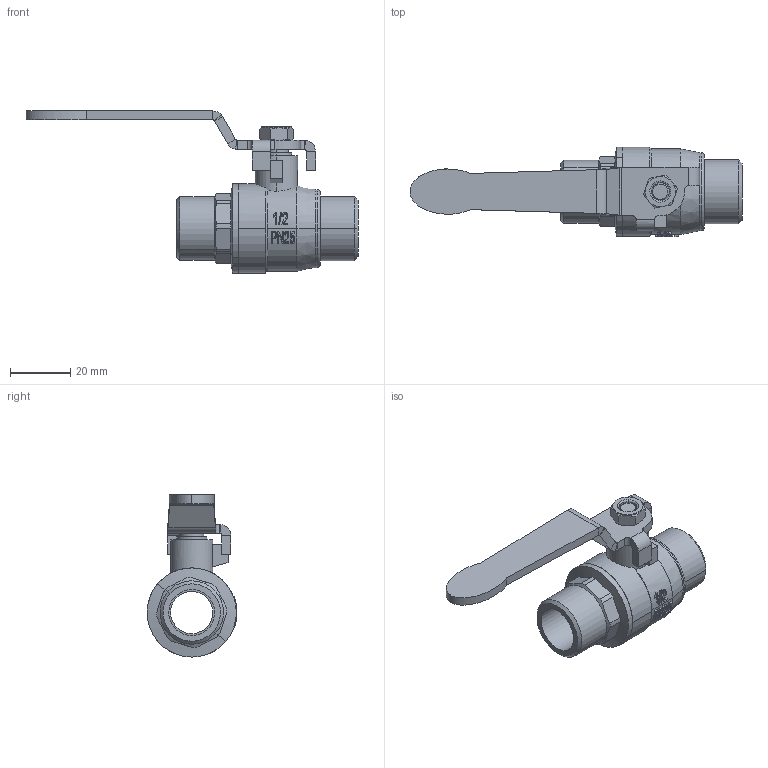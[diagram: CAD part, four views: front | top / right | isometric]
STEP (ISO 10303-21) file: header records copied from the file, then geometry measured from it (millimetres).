
FILE_DESCRIPTION(/* description */ (''),/* implementation_level */ '2;1');
FILE_NAME(/* name */ '1073.stp',/* time_stamp */ '2022-05-12T16:25:48+08:00',/* author */ (''),/* organization */ (''),/* preprocessor_version */ 'ST-DEVELOPER v11',/* originating_system */ 'SIEMENS PLM Software NX 7.5',/* authorisation */ '');
FILE_SCHEMA (('CONFIG_CONTROL_DESIGN'));
Length unit declared in the file: millimetre
Products named in the file (1): 1073
Bounding box: 109.87 x 29.67 x 53.67 mm (x, y, z)
Volume: 19930.9 mm3; surface area: 16587.1 mm2
Topology: 5 solids, 5 shells, 306 faces, 741 edges, 468 vertices
Faces by surface type: plane 115, cylinder 88, bspline 56, cone 39, torus 6, sphere 2
Entity records: 21481 total; most frequent: CARTESIAN_POINT 14626, ORIENTED_EDGE 1488, DIRECTION 1258, EDGE_CURVE 744, AXIS2_PLACEMENT_3D 491, VERTEX_POINT 472, EDGE_LOOP 340, ADVANCED_FACE 306
